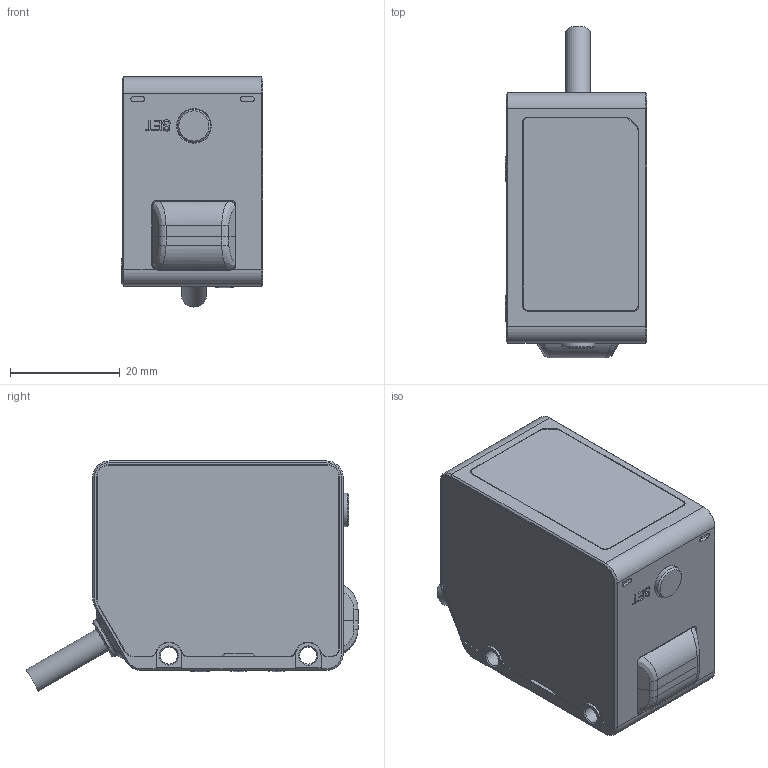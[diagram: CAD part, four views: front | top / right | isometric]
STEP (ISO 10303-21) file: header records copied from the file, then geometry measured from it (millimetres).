
FILE_DESCRIPTION(/* description */ (''),/* implementation_level */ '2;1');
FILE_NAME(/* name */ 'WDS2370S01-2024-1-13.stp',/* time_stamp */ '2024-01-26T16:48:29+08:00',/* author */ (''),/* organization */ (''),/* preprocessor_version */ 'ST-DEVELOPER v16',/* originating_system */ 'SIEMENS PLM Software NX 10.0',/* authorisation */ '');
FILE_SCHEMA (('AUTOMOTIVE_DESIGN { 1 0 10303 214 3 1 1 1 }'));
Products named in the file (1): admi3EF450F9ugq9
Bounding box: 25.9 x 60.58 x 41.97 mm (x, y, z)
Volume: 23528.4 mm3; surface area: 37475 mm2
Topology: 38 solids, 44 shells, 2939 faces, 7601 edges, 5003 vertices
Faces by surface type: plane 2199, cylinder 448, extrusion 93, bspline 81, cone 76, torus 32, sphere 10
Full cylindrical faces by diameter (mm): 0.8 x2, 1 x3, 1.1 x1, 1.3 x1, 1.4 x6, 1.651 x1, 1.7 x4, 2 x2, 2.1 x2, 2.8 x2, 3 x1, 3.1 x3, 4.1 x1, 4.4 x2, 4.5 x2, 4.7 x1, 5 x4, 5.03 x2, 5.5 x2, 6.1 x2, 6.6 x1, 8.5 x1, 9 x1, 10 x2, 10.02 x1, 12.42 x1
Entity records: 101767 total; most frequent: CARTESIAN_POINT 30965, ORIENTED_EDGE 14844, DIRECTION 12922, EDGE_CURVE 7442, VECTOR 5302, LINE 5209, VERTEX_POINT 4958, AXIS2_PLACEMENT_3D 3810
